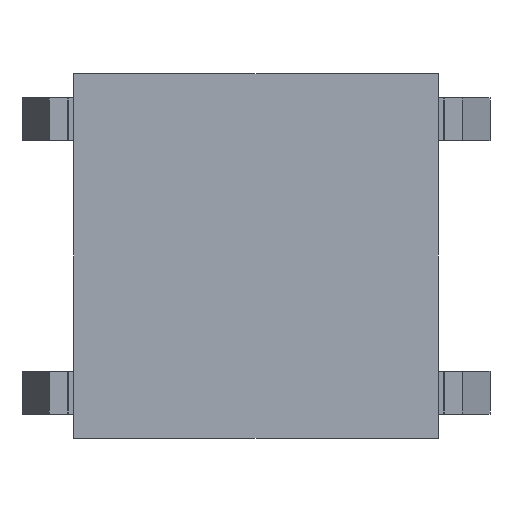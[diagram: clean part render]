
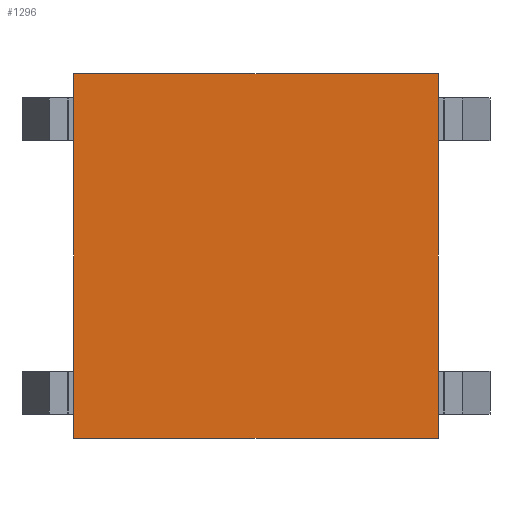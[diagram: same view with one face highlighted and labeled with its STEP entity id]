
A CAD part, front view. The second image highlights one B-rep face of the part: STEP entity #1296.
In plain terms, the highlighted planar face has unit normal (0, -1, 0).
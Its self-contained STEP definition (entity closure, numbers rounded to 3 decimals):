
#91=FACE_OUTER_BOUND('',#178,.T.);
#178=EDGE_LOOP('',(#973,#974,#975,#976));
#259=LINE('',#1923,#422);
#269=LINE('',#1943,#432);
#271=LINE('',#1947,#434);
#272=LINE('',#1949,#435);
#422=VECTOR('',#1576,1000.);
#432=VECTOR('',#1588,1000.);
#434=VECTOR('',#1592,1000.);
#435=VECTOR('',#1595,1000.);
#582=VERTEX_POINT('',#1919);
#583=VERTEX_POINT('',#1921);
#592=VERTEX_POINT('',#1941);
#593=VERTEX_POINT('',#1945);
#717=EDGE_CURVE('',#583,#582,#259,.T.);
#727=EDGE_CURVE('',#592,#582,#269,.T.);
#729=EDGE_CURVE('',#593,#583,#271,.T.);
#730=EDGE_CURVE('',#593,#592,#272,.T.);
#973=ORIENTED_EDGE('',*,*,#727,.T.);
#974=ORIENTED_EDGE('',*,*,#717,.F.);
#975=ORIENTED_EDGE('',*,*,#729,.F.);
#976=ORIENTED_EDGE('',*,*,#730,.T.);
#1221=PLANE('',#1413);
#1296=ADVANCED_FACE('',(#91),#1221,.F.);
#1413=AXIS2_PLACEMENT_3D('',#1976,#1617,#1618);
#1576=DIRECTION('',(0.,0.,-1.));
#1588=DIRECTION('',(1.,0.,0.));
#1592=DIRECTION('',(1.,0.,0.));
#1595=DIRECTION('',(0.,0.,-1.));
#1617=DIRECTION('center_axis',(0.,1.,0.));
#1618=DIRECTION('ref_axis',(-1.,0.,0.));
#1919=CARTESIAN_POINT('',(3.,0.,-3.));
#1921=CARTESIAN_POINT('',(3.,0.,3.));
#1923=CARTESIAN_POINT('',(3.,0.,3.));
#1941=CARTESIAN_POINT('',(-3.,0.,-3.));
#1943=CARTESIAN_POINT('',(-3.,0.,-3.));
#1945=CARTESIAN_POINT('',(-3.,0.,3.));
#1947=CARTESIAN_POINT('',(-3.,0.,3.));
#1949=CARTESIAN_POINT('',(-3.,0.,3.));
#1976=CARTESIAN_POINT('Origin',(-3.,0.,3.));
